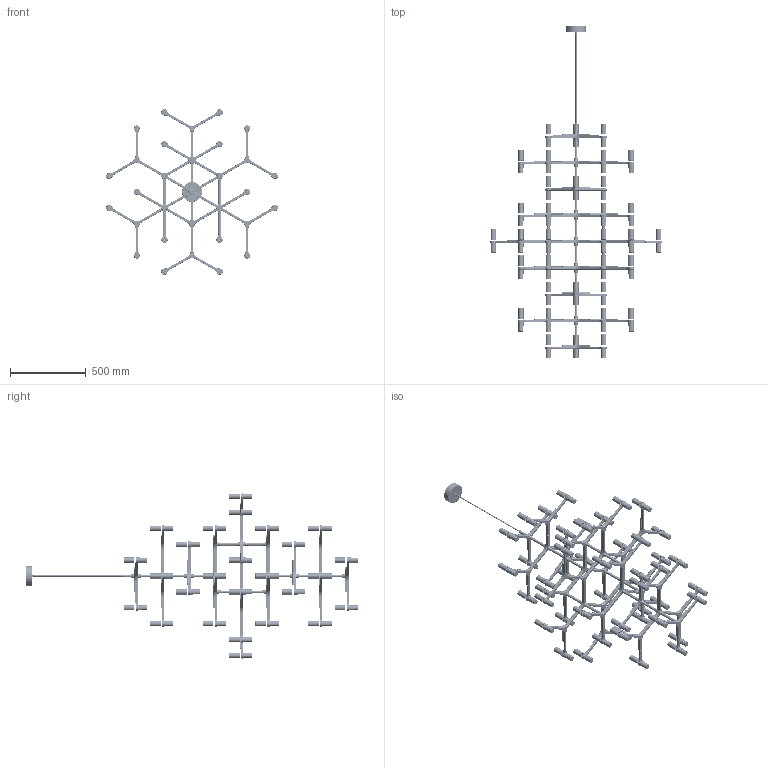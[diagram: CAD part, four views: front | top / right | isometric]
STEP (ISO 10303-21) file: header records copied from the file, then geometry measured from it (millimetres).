
FILE_DESCRIPTION (( 'STEP AP203' ), '1' );
FILE_NAME ('Summa 48.STEP', '2017-06-01T09:40:56', ( '' ), ( '' ), 'SwSTEP 2.0', 'SolidWorks 2016', '' );
FILE_SCHEMA (( 'CONFIG_CONTROL_DESIGN' ));
Length unit declared in the file: millimetre
Products named in the file (16): 061CRO701200; ROSONE CROWN; 051CRO701100; 010COM000850; 051CRO700200; red cable; COLONNA_DIST; 051CRO700400; 051CRO700300; COLONNA; TCEI_M3-18; 051CRO700500; 051CRO700100; 051CRO700800; Summa 48; 051CRO700600
Assembly tree (347 placements, depth 2):
  Summa 48
    ROSONE CROWN
    010COM000850
    red cable
    051CRO700400  x13
    COLONNA
    051CRO700500  x48
    051CRO700800  x48
    051CRO700600  x48
    061CRO701200  x48
    051CRO701100  x3
    051CRO700200  x12
    COLONNA_DIST  x12
    051CRO700300  x19
    TCEI_M3-18  x72
    051CRO700100  x20
Bounding box: 1133.19 x 2190.5 x 1092 mm (x, y, z)
Volume: 1119206.2 mm3; surface area: 3746558.9 mm2
Topology: 66 solids, 692 shells, 52289 faces, 140223 edges, 91760 vertices
Faces by surface type: plane 34145, cylinder 9214, bspline 5836, cone 2692, torus 402
Entity records: 125136 total; most frequent: CARTESIAN_POINT 39790, ORIENTED_EDGE 16030, DIRECTION 14746, EDGE_CURVE 8053, LINE 5844, VECTOR 5844, VERTEX_POINT 5283, AXIS2_PLACEMENT_3D 4451
